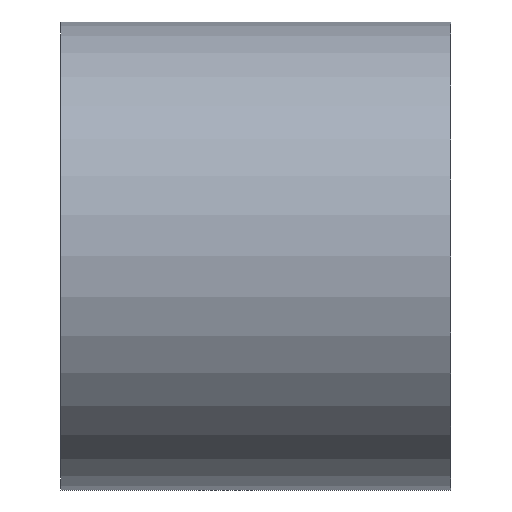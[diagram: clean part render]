
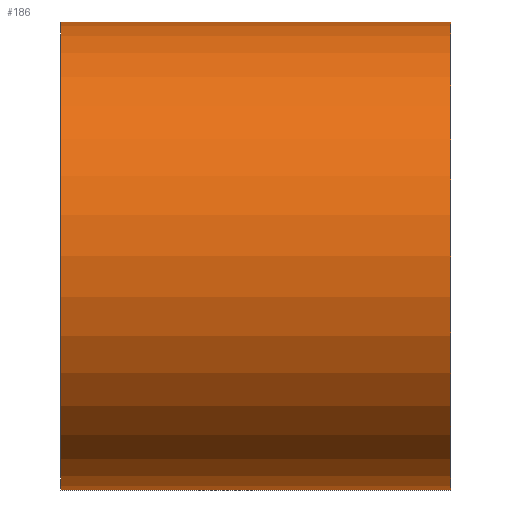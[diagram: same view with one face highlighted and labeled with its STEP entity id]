
A CAD part, front view. The second image highlights one B-rep face of the part: STEP entity #186.
In plain terms, the highlighted cylindrical face has radius 600 mm (diameter 1200 mm), a partial arc.
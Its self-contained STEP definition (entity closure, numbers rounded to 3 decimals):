
#186=ADVANCED_FACE('',(#374),#375,.T.);
#374=FACE_OUTER_BOUND('',#589,.T.);
#375=CYLINDRICAL_SURFACE('',#590,600.0);
#589=EDGE_LOOP('',(#1079,#1080,#1081,#1082));
#590=AXIS2_PLACEMENT_3D('',#1083,#1084,#1085);
#1079=ORIENTED_EDGE('',*,*,#1167,.T.);
#1080=ORIENTED_EDGE('',*,*,#1373,.F.);
#1081=ORIENTED_EDGE('',*,*,#1169,.T.);
#1082=ORIENTED_EDGE('',*,*,#1374,.F.);
#1083=CARTESIAN_POINT('',(0.0,0.0,0.0));
#1084=DIRECTION('',(1.0,0.0,0.0));
#1085=DIRECTION('',(0.0,0.0,-1.0));
#1167=EDGE_CURVE('',#1378,#1379,#1380,.T.);
#1169=EDGE_CURVE('',#1383,#1381,#1384,.T.);
#1373=EDGE_CURVE('',#1383,#1379,#1687,.T.);
#1374=EDGE_CURVE('',#1378,#1381,#1688,.T.);
#1378=VERTEX_POINT('',#1692);
#1379=VERTEX_POINT('',#1693);
#1380=LINE('',#1694,#1695);
#1381=VERTEX_POINT('',#1696);
#1383=VERTEX_POINT('',#1698);
#1384=LINE('',#1699,#1700);
#1687=CIRCLE('',#2063,600.0);
#1688=CIRCLE('',#2064,600.0);
#1692=CARTESIAN_POINT('',(-500.0,0.0,-600.0));
#1693=CARTESIAN_POINT('',(500.0,0.0,-600.0));
#1694=CARTESIAN_POINT('',(0.0,0.,-600.0));
#1695=VECTOR('',#2067,1.0);
#1696=CARTESIAN_POINT('',(-500.0,0.,600.0));
#1698=CARTESIAN_POINT('',(500.0,0.,600.0));
#1699=CARTESIAN_POINT('',(0.0,0.,600.0));
#1700=VECTOR('',#2071,1.0);
#2063=AXIS2_PLACEMENT_3D('',#2402,#2403,#2404);
#2064=AXIS2_PLACEMENT_3D('',#2405,#2406,#2407);
#2067=DIRECTION('',(1.0,0.0,0.0));
#2071=DIRECTION('',(-1.0,-0.0,-0.0));
#2402=CARTESIAN_POINT('',(500.0,0.0,0.0));
#2403=DIRECTION('',(1.0,0.0,0.0));
#2404=DIRECTION('',(0.0,0.0,-1.0));
#2405=CARTESIAN_POINT('',(-500.0,0.0,0.0));
#2406=DIRECTION('',(-1.0,0.0,0.0));
#2407=DIRECTION('',(0.0,0.0,-1.0));
